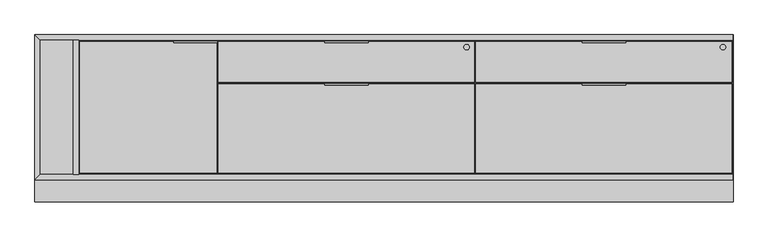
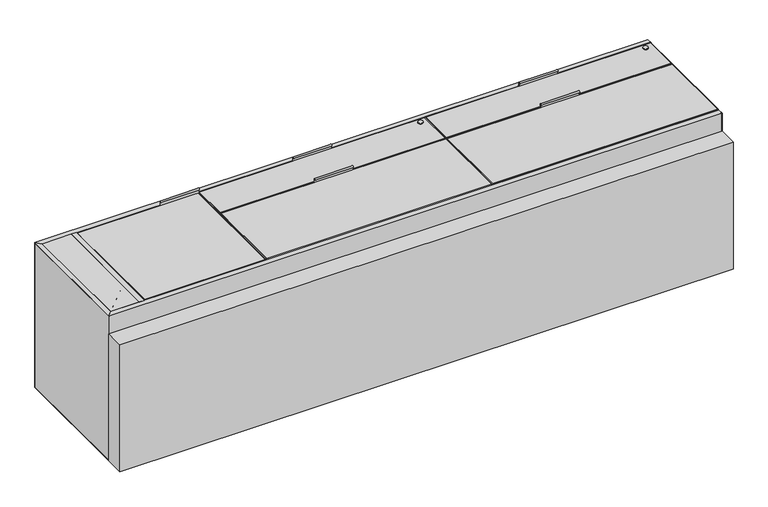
"""IFC4 building model written with IfcOpenShell, lengths in millimetres: proxy geometry, CCN^APOGEE_L1 CREDENZA-ASSEMBLY."""

from ifc_helpers import new_model, si_unit, point, frame, frame_2d, origin, origin_with_axes, place, context, project, spatial, polyline, circle_curve, trimmed, segment, composite_curve, outline, extrude, source, transform, mapped, element, save
from ifc_brep_helpers import plane_surface, cylinder_surface, advanced_brep


def generic_models_be77584e(model_context):
    return source(origin(), model_context, "Body", "SolidModel", [
        extrude(outline(composite_curve([segment(trimmed(circle_curve(frame_2d((483.39375, 626.7432437)), 3.175), [point((484.98125, 623.993613))], [point((486.56875, 626.7432437))], False, "CARTESIAN"), True, "CONTINUOUS"), segment(polyline([(486.56875, 626.7432437), (486.56875, 591.8182437), (467.51875, 591.8182437), (467.51875, 593.4057437), (484.98125, 593.4057437), (484.98125, 623.993613)]), True, "CONTINUOUS")], self_intersect=False)), frame((-2410.61875, 0.0, 0.0), z_axis=(1.0, 0.0, 0.0), x_axis=(0.0, 1.0, 0.0)), (0.0, 0.0, 1.0), 152.4),
        extrude(outline(polyline([(-457.2, 0.0), (-457.2, -76.2), (-2895.6, -76.2), (-2895.6, 0.0), (-457.2, 0.0)])), origin_with_axes(), (0.0, 0.0, 1.0), 533.4),
        extrude(outline(polyline([(-2876.55, 488.95), (-458.4192, 488.95), (-458.4192, 19.05), (-2876.55, 19.05), (-2876.55, 488.95)])), origin_with_axes(), (0.0, 0.0, 1.0), 19.05),
        extrude(outline(polyline([(-458.4192, 19.05), (-458.4192, 488.95), (-457.2, 488.95), (-457.2, 19.05), (-458.4192, 19.05)])), origin_with_axes(), (0.0, 0.0, 1.0), 19.05),
        extrude(outline(polyline([(-2410.61875, 485.34955), (-2739.59955, 485.34955), (-2739.59955, 486.56875), (-2410.61875, 486.56875), (-2410.61875, 485.34955)])), frame((0.0, 0.0, 590.55), z_axis=(0.0, 0.0, 1.0), x_axis=(1.0, 0.0, 0.0)), (0.0, 0.0, 1.0), 19.05),
        extrude(outline(polyline([(-2259.43795, 22.65045), (-2259.43795, 484.98125), (-2258.21875, 484.98125), (-2258.21875, 22.65045), (-2259.43795, 22.65045)])), frame((0.0, 0.0, 590.55), z_axis=(0.0, 0.0, 1.0), x_axis=(1.0, 0.0, 0.0)), (0.0, 0.0, 1.0), 19.05),
        extrude(outline(polyline([(-2739.59955, 22.65045), (-2259.43795, 22.65045), (-2259.43795, 21.43125), (-2739.59955, 21.43125), (-2739.59955, 22.65045)])), frame((0.0, 0.0, 590.55), z_axis=(0.0, 0.0, 1.0), x_axis=(1.0, 0.0, 0.0)), (0.0, 0.0, 1.0), 19.05),
        extrude(outline(polyline([(-2739.59955, 485.34955), (-2259.43795, 485.34955), (-2259.43795, 22.65045), (-2739.59955, 22.65045), (-2739.59955, 485.34955)])), frame((0.0, 0.0, 590.55), z_axis=(0.0, 0.0, 1.0), x_axis=(1.0, 0.0, 0.0)), (0.0, 0.0, 1.0), 19.05),
        extrude(outline(polyline([(-2739.59955, 485.34955), (-2739.59955, 22.65045), (-2740.81875, 22.65045), (-2740.81875, 485.34955), (-2739.59955, 485.34955)])), frame((0.0, 0.0, 590.55), z_axis=(0.0, 0.0, 1.0), x_axis=(1.0, 0.0, 0.0)), (0.0, 0.0, 1.0), 19.05),
        extrude(outline(polyline([(-1393.825, 47.625), (-1393.825, 20.6375), (-1373.1875, 20.6375), (-1373.1875, 69.85), (-1371.6, 69.85), (-1371.6, 19.05), (-1409.7, 19.05), (-1409.7, 47.625), (-1393.825, 47.625)])), frame((0.0, 0.0, 148.9057437), z_axis=(0.0, 0.0, 1.0), x_axis=(1.0, 0.0, 0.0)), (0.0, 0.0, 1.0), 441.325),
        extrude(outline(polyline([(-2743.2, 488.95), (-2743.2, 19.05), (-2762.25, 19.05), (-2762.25, 488.95), (-2743.2, 488.95)])), frame((0.0, 0.0, 19.05), z_axis=(0.0, 0.0, 1.0), x_axis=(1.0, 0.0, 0.0)), (0.0, 0.0, 1.0), 589.3308),
        extrude(outline(polyline([(-2743.2, 488.95), (-2743.2, 19.05), (-2762.25, 19.05), (-2762.25, 488.95), (-2743.2, 488.95)])), frame((0.0, 0.0, 608.3808), z_axis=(0.0, 0.0, 1.0), x_axis=(1.0, 0.0, 0.0)), (0.0, 0.0, 1.0), 1.2192),
        extrude(outline(composite_curve([segment(trimmed(circle_curve(frame_2d((334.9625, 626.7432437)), 3.175), [point((336.55, 623.993613))], [point((338.1375, 626.7432437))], False, "CARTESIAN"), True, "CONTINUOUS"), segment(polyline([(338.1375, 626.7432437), (338.1375, 591.8182437), (319.0875, 591.8182437), (319.0875, 593.4057437), (336.55, 593.4057437), (336.55, 623.993613)]), True, "CONTINUOUS")], self_intersect=False)), frame((-1883.56875, 0.0, 0.0), z_axis=(1.0, 0.0, 0.0), x_axis=(0.0, 1.0, 0.0)), (0.0, 0.0, 1.0), 152.4),
        extrude(outline(polyline([(-458.4192, 0.0), (-458.4192, 19.05), (-457.2, 19.05), (-457.2, 0.0), (-458.4192, 0.0)])), frame((0.0, 0.0, 1.2192), z_axis=(0.0, 0.0, 1.0), x_axis=(1.0, 0.0, 0.0)), (0.0, 0.0, 1.0), 607.1616),
        extrude(outline(polyline([(-2895.6, 0.0), (-2876.55, 19.05), (-458.4192, 19.05), (-458.4192, 0.0), (-2895.6, 0.0)])), frame((0.0, 0.0, 608.3808), z_axis=(0.0, 0.0, 1.0), x_axis=(1.0, 0.0, 0.0)), (0.0, 0.0, 1.0), 1.2192),
        extrude(outline(polyline([(-2895.6, 0.0), (-2876.55, 19.05), (-458.4192, 19.05), (-458.4192, 0.0), (-2895.6, 0.0)])), origin_with_axes(), (0.0, 0.0, 1.0), 1.2192),
        extrude(outline(polyline([(-2895.6, 0.0), (-2876.55, 19.05), (-458.4192, 19.05), (-458.4192, 0.0), (-2895.6, 0.0)])), frame((0.0, 0.0, 1.2192), z_axis=(0.0, 0.0, 1.0), x_axis=(1.0, 0.0, 0.0)), (0.0, 0.0, 1.0), 607.1616),
        extrude(outline(polyline([(-2876.55, 488.95), (-2762.25, 488.95), (-2762.25, 19.05), (-2876.55, 19.05), (-2876.55, 488.95)])), frame((0.0, 0.0, 590.55), z_axis=(0.0, 0.0, 1.0), x_axis=(1.0, 0.0, 0.0)), (0.0, 0.0, 1.0), 19.05),
        extrude(outline(polyline([(-1330.325, 20.6375), (-1330.325, 47.625), (-1314.45, 47.625), (-1314.45, 19.05), (-1352.55, 19.05), (-1352.55, 69.85), (-1350.9625, 69.85), (-1350.9625, 20.6375), (-1330.325, 20.6375)])), frame((0.0, 0.0, 148.9057437), z_axis=(0.0, 0.0, 1.0), x_axis=(1.0, 0.0, 0.0)), (0.0, 0.0, 1.0), 441.325),
        extrude(outline(polyline([(-498.475, 47.625), (-498.475, 20.6375), (-477.8375, 20.6375), (-477.8375, 69.85), (-476.25, 69.85), (-476.25, 19.05), (-514.35, 19.05), (-514.35, 47.625), (-498.475, 47.625)])), frame((0.0, 0.0, 148.9057437), z_axis=(0.0, 0.0, 1.0), x_axis=(1.0, 0.0, 0.0)), (0.0, 0.0, 1.0), 441.325),
        extrude(outline(composite_curve([segment(trimmed(circle_curve(frame_2d((483.39375, 626.7432437)), 3.175), [point((484.98125, 623.993613))], [point((486.56875, 626.7432437))], False, "CARTESIAN"), True, "CONTINUOUS"), segment(polyline([(486.56875, 626.7432437), (486.56875, 591.8182437), (467.51875, 591.8182437), (467.51875, 593.4057437), (484.98125, 593.4057437), (484.98125, 623.993613)]), True, "CONTINUOUS")], self_intersect=False)), frame((-984.25, 0.0, 0.0), z_axis=(1.0, 0.0, 0.0), x_axis=(0.0, 1.0, 0.0)), (0.0, 0.0, 1.0), 152.4),
        extrude(outline(polyline([(-1352.55, 488.95), (-1352.55, 19.05), (-1371.6, 19.05), (-1371.6, 488.95), (-1352.55, 488.95)])), frame((0.0, 0.0, 586.1558), z_axis=(0.0, 0.0, 1.0), x_axis=(1.0, 0.0, 0.0)), (0.0, 0.0, 1.0), 1.2192),
        extrude(outline(polyline([(-476.25, 488.95), (-457.2, 488.95), (-457.2, 19.05), (-476.25, 19.05), (-476.25, 488.95)])), frame((0.0, 0.0, 586.1558), z_axis=(0.0, 0.0, 1.0), x_axis=(1.0, 0.0, 0.0)), (0.0, 0.0, 1.0), 1.2192),
        extrude(outline(polyline([(-458.4192, 488.95), (-458.4192, 508.0), (-457.2, 508.0), (-457.2, 488.95), (-458.4192, 488.95)])), frame((0.0, 0.0, 1.2192), z_axis=(0.0, 0.0, 1.0), x_axis=(1.0, 0.0, 0.0)), (0.0, 0.0, 1.0), 607.1616),
        extrude(outline(polyline([(-2876.55, 488.95), (-2895.6, 508.0), (-458.4192, 508.0), (-458.4192, 488.95), (-2876.55, 488.95)])), frame((0.0, 0.0, 608.3808), z_axis=(0.0, 0.0, 1.0), x_axis=(1.0, 0.0, 0.0)), (0.0, 0.0, 1.0), 1.2192),
        extrude(outline(polyline([(-2876.55, 488.95), (-2895.6, 508.0), (-458.4192, 508.0), (-458.4192, 488.95), (-2876.55, 488.95)])), origin_with_axes(), (0.0, 0.0, 1.0), 1.2192),
        extrude(outline(polyline([(-2876.55, 488.95), (-2895.6, 508.0), (-458.4192, 508.0), (-458.4192, 488.95), (-2876.55, 488.95)])), frame((0.0, 0.0, 1.2192), z_axis=(0.0, 0.0, 1.0), x_axis=(1.0, 0.0, 0.0)), (0.0, 0.0, 1.0), 607.1616),
        extrude(outline(composite_curve([segment(trimmed(circle_curve(frame_2d((334.9625, 626.7432437)), 3.175), [point((336.55, 623.993613))], [point((338.1375, 626.7432437))], False, "CARTESIAN"), True, "CONTINUOUS"), segment(polyline([(338.1375, 626.7432437), (338.1375, 591.8182437), (319.0875, 591.8182437), (319.0875, 593.4057437), (336.55, 593.4057437), (336.55, 623.993613)]), True, "CONTINUOUS")], self_intersect=False)), frame((-984.25, 0.0, 0.0), z_axis=(1.0, 0.0, 0.0), x_axis=(0.0, 1.0, 0.0)), (0.0, 0.0, 1.0), 152.4),
        advanced_brep(
        [(-500.022975, 464.8289627, 612.4557437), (-500.022975, 464.8289627, 599.7557437), (-485.519575, 464.8289627, 599.7557437), (-485.519575, 464.8289627, 612.4557437), (-502.296275, 464.8289627, 612.4557437), (-502.296275, 464.8289627, 615.6307437), (-483.246275, 464.8289627, 615.6307437), (-483.246275, 464.8289627, 612.4557437)],
        [
            (0, 1),
            (1, 2, circle_curve(frame((-492.771275, 464.8289627, 599.7557437), z_axis=(0.0, 0.0, 1.0), x_axis=(-1.0, 0.0, 0.0)), 7.2517)),
            (2, 3),
            (3, 0, circle_curve(frame((-492.771275, 464.8289627, 612.4557437), z_axis=(0.0, 0.0, -1.0), x_axis=(-1.0, 0.0, 0.0)), 7.2517)),
            (4, 5),
            (5, 6, circle_curve(frame((-492.771275, 464.8289627, 615.6307437), z_axis=(0.0, 0.0, -1.0), x_axis=(-1.0, 0.0, 0.0)), 9.525)),
            (6, 7),
            (7, 4, circle_curve(frame((-492.771275, 464.8289627, 612.4557437), z_axis=(0.0, 0.0, 1.0), x_axis=(-1.0, 0.0, 0.0)), 9.525)),
            (5, 6, circle_curve(frame((-492.771275, 464.8289627, 615.6307437), z_axis=(0.0, 0.0, 1.0), x_axis=(-1.0, 0.0, 0.0)), 9.525)),
            (1, 2, circle_curve(frame((-492.771275, 464.8289627, 599.7557437), z_axis=(0.0, 0.0, -1.0), x_axis=(-1.0, 0.0, 0.0)), 7.2517)),
            (7, 4, circle_curve(frame((-492.771275, 464.8289627, 612.4557437), z_axis=(0.0, 0.0, -1.0), x_axis=(-1.0, 0.0, 0.0)), 9.525)),
            (3, 0, circle_curve(frame((-492.771275, 464.8289627, 612.4557437), z_axis=(0.0, 0.0, 1.0), x_axis=(-1.0, 0.0, 0.0)), 7.2517)),
        ],
        [
            cylinder_surface(frame((-492.771275, 464.8289627, 612.4557437), z_axis=(0.0, 0.0, -1.0), x_axis=(-1.0, 0.0, 0.0)), 7.2517),
            cylinder_surface(frame((-492.771275, 464.8289627, 612.4557437), z_axis=(0.0, 0.0, 1.0), x_axis=(-1.0, 0.0, 0.0)), 9.525),
            plane_surface(frame((-492.771275, 464.8289627, 615.6307437), z_axis=(0.0, 0.0, 1.0), x_axis=(-1.0, 0.0, 0.0))),
            plane_surface(frame((-492.771275, 464.8289627, 599.7557437), z_axis=(0.0, 0.0, -1.0), x_axis=(-1.0, 0.0, 0.0))),
            plane_surface(frame((-492.771275, 464.8289627, 612.4557437), z_axis=(0.0, 0.0, -1.0), x_axis=(-1.0, 0.0, 0.0))),
        ],
        [
            (0, [[1, 2, 3, 4]]),
            (1, [[5, 6, 7, 8]]),
            (2, [[9, -6]]),
            (3, [[10, -2]]),
            (4, [[11, -8], [-4, 12]]),
            (1, [[-5, -11, -7, -9]]),
            (0, [[-1, -12, -3, -10]]),
        ],
    ),
        extrude(outline(polyline([(-1360.1192, 485.34955), (-1731.16875, 485.34955), (-1731.16875, 486.56875), (-1360.1192, 486.56875), (-1360.1192, 485.34955)])), frame((0.0, 0.0, 593.4057437), z_axis=(0.0, 0.0, 1.0), x_axis=(1.0, 0.0, 0.0)), (0.0, 0.0, 1.0), 19.05),
        extrude(outline(polyline([(-1360.1192, 341.73795), (-1360.1192, 485.34955), (-1358.9, 485.34955), (-1358.9, 341.73795), (-1360.1192, 341.73795)])), frame((0.0, 0.0, 593.4057437), z_axis=(0.0, 0.0, 1.0), x_axis=(1.0, 0.0, 0.0)), (0.0, 0.0, 1.0), 19.05),
        extrude(outline(polyline([(-1883.56875, 485.34955), (-2254.6183, 485.34955), (-2254.6183, 486.56875), (-1883.56875, 486.56875), (-1883.56875, 485.34955)])), frame((0.0, 0.0, 593.4057437), z_axis=(0.0, 0.0, 1.0), x_axis=(1.0, 0.0, 0.0)), (0.0, 0.0, 1.0), 19.05),
        extrude(outline(polyline([(-2254.6183, 341.73795), (-1360.1192, 341.73795), (-1360.1192, 340.51875), (-2254.6183, 340.51875), (-2254.6183, 341.73795)])), frame((0.0, 0.0, 593.4057437), z_axis=(0.0, 0.0, 1.0), x_axis=(1.0, 0.0, 0.0)), (0.0, 0.0, 1.0), 19.05),
        extrude(outline(polyline([(-2254.6183, 485.34955), (-1360.1192, 485.34955), (-1360.1192, 341.73795), (-2254.6183, 341.73795), (-2254.6183, 485.34955)])), frame((0.0, 0.0, 593.4057437), z_axis=(0.0, 0.0, 1.0), x_axis=(1.0, 0.0, 0.0)), (0.0, 0.0, 1.0), 19.05),
        extrude(outline(polyline([(-2254.6183, 485.34955), (-2254.6183, 341.73795), (-2255.8375, 341.73795), (-2255.8375, 485.34955), (-2254.6183, 485.34955)])), frame((0.0, 0.0, 593.4057437), z_axis=(0.0, 0.0, 1.0), x_axis=(1.0, 0.0, 0.0)), (0.0, 0.0, 1.0), 19.05),
        extrude(outline(polyline([(-460.80045, 336.9183), (-831.85, 336.9183), (-831.85, 338.1375), (-460.80045, 338.1375), (-460.80045, 336.9183)])), frame((0.0, 0.0, 593.4057437), z_axis=(0.0, 0.0, 1.0), x_axis=(1.0, 0.0, 0.0)), (0.0, 0.0, 1.0), 19.05),
        extrude(outline(polyline([(-460.80045, 22.65045), (-460.80045, 336.9183), (-459.58125, 336.9183), (-459.58125, 22.65045), (-460.80045, 22.65045)])), frame((0.0, 0.0, 593.4057437), z_axis=(0.0, 0.0, 1.0), x_axis=(1.0, 0.0, 0.0)), (0.0, 0.0, 1.0), 19.05),
        extrude(outline(polyline([(-984.25, 336.9183), (-1355.29955, 336.9183), (-1355.29955, 338.1375), (-984.25, 338.1375), (-984.25, 336.9183)])), frame((0.0, 0.0, 593.4057437), z_axis=(0.0, 0.0, 1.0), x_axis=(1.0, 0.0, 0.0)), (0.0, 0.0, 1.0), 19.05),
        extrude(outline(polyline([(-1355.29955, 22.65045), (-460.80045, 22.65045), (-460.80045, 21.43125), (-1355.29955, 21.43125), (-1355.29955, 22.65045)])), frame((0.0, 0.0, 593.4057437), z_axis=(0.0, 0.0, 1.0), x_axis=(1.0, 0.0, 0.0)), (0.0, 0.0, 1.0), 19.05),
        extrude(outline(polyline([(-1355.29955, 336.9183), (-460.80045, 336.9183), (-460.80045, 22.65045), (-1355.29955, 22.65045), (-1355.29955, 336.9183)])), frame((0.0, 0.0, 593.4057437), z_axis=(0.0, 0.0, 1.0), x_axis=(1.0, 0.0, 0.0)), (0.0, 0.0, 1.0), 19.05),
        extrude(outline(polyline([(-1355.29955, 336.9183), (-1355.29955, 22.65045), (-1356.51875, 22.65045), (-1356.51875, 336.9183), (-1355.29955, 336.9183)])), frame((0.0, 0.0, 593.4057437), z_axis=(0.0, 0.0, 1.0), x_axis=(1.0, 0.0, 0.0)), (0.0, 0.0, 1.0), 19.05),
        advanced_brep(
        [(-1394.9395492, 464.8289627, 612.4557437), (-1394.9395492, 464.8289627, 599.7557437), (-1380.4361492, 464.8289627, 599.7557437), (-1380.4361492, 464.8289627, 612.4557437), (-1397.2128492, 464.8289627, 612.4557437), (-1397.2128492, 464.8289627, 615.6307437), (-1378.1628492, 464.8289627, 615.6307437), (-1378.1628492, 464.8289627, 612.4557437)],
        [
            (0, 1),
            (1, 2, circle_curve(frame((-1387.6878492, 464.8289627, 599.7557437), z_axis=(0.0, 0.0, 1.0), x_axis=(-1.0, 0.0, 0.0)), 7.2517)),
            (2, 3),
            (3, 0, circle_curve(frame((-1387.6878492, 464.8289627, 612.4557437), z_axis=(0.0, 0.0, -1.0), x_axis=(-1.0, 0.0, 0.0)), 7.2517)),
            (4, 5),
            (5, 6, circle_curve(frame((-1387.6878492, 464.8289627, 615.6307437), z_axis=(0.0, 0.0, -1.0), x_axis=(-1.0, 0.0, 0.0)), 9.525)),
            (6, 7),
            (7, 4, circle_curve(frame((-1387.6878492, 464.8289627, 612.4557437), z_axis=(0.0, 0.0, 1.0), x_axis=(-1.0, 0.0, 0.0)), 9.525)),
            (5, 6, circle_curve(frame((-1387.6878492, 464.8289627, 615.6307437), z_axis=(0.0, 0.0, 1.0), x_axis=(-1.0, 0.0, 0.0)), 9.525)),
            (1, 2, circle_curve(frame((-1387.6878492, 464.8289627, 599.7557437), z_axis=(0.0, 0.0, -1.0), x_axis=(-1.0, 0.0, 0.0)), 7.2517)),
            (7, 4, circle_curve(frame((-1387.6878492, 464.8289627, 612.4557437), z_axis=(0.0, 0.0, -1.0), x_axis=(-1.0, 0.0, 0.0)), 9.525)),
            (3, 0, circle_curve(frame((-1387.6878492, 464.8289627, 612.4557437), z_axis=(0.0, 0.0, 1.0), x_axis=(-1.0, 0.0, 0.0)), 7.2517)),
        ],
        [
            cylinder_surface(frame((-1387.6878492, 464.8289627, 612.4557437), z_axis=(0.0, 0.0, -1.0), x_axis=(-1.0, 0.0, 0.0)), 7.2517),
            cylinder_surface(frame((-1387.6878492, 464.8289627, 612.4557437), z_axis=(0.0, 0.0, 1.0), x_axis=(-1.0, 0.0, 0.0)), 9.525),
            plane_surface(frame((-1387.6878492, 464.8289627, 615.6307437), z_axis=(0.0, 0.0, 1.0), x_axis=(-1.0, 0.0, 0.0))),
            plane_surface(frame((-1387.6878492, 464.8289627, 599.7557437), z_axis=(0.0, 0.0, -1.0), x_axis=(-1.0, 0.0, 0.0))),
            plane_surface(frame((-1387.6878492, 464.8289627, 612.4557437), z_axis=(0.0, 0.0, -1.0), x_axis=(-1.0, 0.0, 0.0))),
        ],
        [
            (0, [[1, 2, 3, 4]]),
            (1, [[5, 6, 7, 8]]),
            (2, [[9, -6]]),
            (3, [[10, -2]]),
            (4, [[11, -8], [-4, 12]]),
            (1, [[-5, -11, -7, -9]]),
            (0, [[-1, -12, -3, -10]]),
        ],
    ),
        extrude(outline(polyline([(-1360.1192, 336.9183), (-1731.16875, 336.9183), (-1731.16875, 338.1375), (-1360.1192, 338.1375), (-1360.1192, 336.9183)])), frame((0.0, 0.0, 593.4057437), z_axis=(0.0, 0.0, 1.0), x_axis=(1.0, 0.0, 0.0)), (0.0, 0.0, 1.0), 19.05),
        extrude(outline(polyline([(-1360.1192, 22.65045), (-1360.1192, 336.9183), (-1358.9, 336.9183), (-1358.9, 22.65045), (-1360.1192, 22.65045)])), frame((0.0, 0.0, 593.4057437), z_axis=(0.0, 0.0, 1.0), x_axis=(1.0, 0.0, 0.0)), (0.0, 0.0, 1.0), 19.05),
        extrude(outline(polyline([(-1883.56875, 336.9183), (-2254.6183, 336.9183), (-2254.6183, 338.1375), (-1883.56875, 338.1375), (-1883.56875, 336.9183)])), frame((0.0, 0.0, 593.4057437), z_axis=(0.0, 0.0, 1.0), x_axis=(1.0, 0.0, 0.0)), (0.0, 0.0, 1.0), 19.05),
        extrude(outline(polyline([(-2254.6183, 22.65045), (-1360.1192, 22.65045), (-1360.1192, 21.43125), (-2254.6183, 21.43125), (-2254.6183, 22.65045)])), frame((0.0, 0.0, 593.4057437), z_axis=(0.0, 0.0, 1.0), x_axis=(1.0, 0.0, 0.0)), (0.0, 0.0, 1.0), 19.05),
        extrude(outline(polyline([(-2254.6183, 336.9183), (-1360.1192, 336.9183), (-1360.1192, 22.65045), (-2254.6183, 22.65045), (-2254.6183, 336.9183)])), frame((0.0, 0.0, 593.4057437), z_axis=(0.0, 0.0, 1.0), x_axis=(1.0, 0.0, 0.0)), (0.0, 0.0, 1.0), 19.05),
        extrude(outline(polyline([(-2254.6183, 336.9183), (-2254.6183, 22.65045), (-2255.8375, 22.65045), (-2255.8375, 336.9183), (-2254.6183, 336.9183)])), frame((0.0, 0.0, 593.4057437), z_axis=(0.0, 0.0, 1.0), x_axis=(1.0, 0.0, 0.0)), (0.0, 0.0, 1.0), 19.05),
        extrude(outline(composite_curve([segment(trimmed(circle_curve(frame_2d((483.39375, 626.7432437)), 3.175), [point((484.98125, 623.993613))], [point((486.56875, 626.7432437))], False, "CARTESIAN"), True, "CONTINUOUS"), segment(polyline([(486.56875, 626.7432437), (486.56875, 591.8182437), (467.51875, 591.8182437), (467.51875, 593.4057437), (484.98125, 593.4057437), (484.98125, 623.993613)]), True, "CONTINUOUS")], self_intersect=False)), frame((-1883.56875, 0.0, 0.0), z_axis=(1.0, 0.0, 0.0), x_axis=(0.0, 1.0, 0.0)), (0.0, 0.0, 1.0), 152.4),
        extrude(outline(polyline([(-2895.6, 508.0), (-2876.55, 488.95), (-2876.55, 19.05), (-2895.6, 0.0), (-2895.6, 508.0)])), frame((0.0, 0.0, 608.3808), z_axis=(0.0, 0.0, 1.0), x_axis=(1.0, 0.0, 0.0)), (0.0, 0.0, 1.0), 1.2192),
        extrude(outline(polyline([(-2895.6, 0.0), (-2895.6, 508.0), (-2876.55, 488.95), (-2876.55, 19.05), (-2895.6, 0.0)])), origin_with_axes(), (0.0, 0.0, 1.0), 1.2192),
        extrude(outline(polyline([(-2641.6, 254.0), (-2895.6, 0.0), (-2895.6, 508.0), (-2641.6, 254.0)])), frame((0.0, 0.0, 1.2192), z_axis=(0.0, 0.0, 1.0), x_axis=(1.0, 0.0, 0.0)), (0.0, 0.0, 1.0), 607.1616),
        extrude(outline(polyline([(-460.80045, 485.34955), (-831.85, 485.34955), (-831.85, 486.56875), (-460.80045, 486.56875), (-460.80045, 485.34955)])), frame((0.0, 0.0, 593.4057437), z_axis=(0.0, 0.0, 1.0), x_axis=(1.0, 0.0, 0.0)), (0.0, 0.0, 1.0), 19.05),
        extrude(outline(polyline([(-460.80045, 341.73795), (-460.80045, 485.34955), (-459.58125, 485.34955), (-459.58125, 341.73795), (-460.80045, 341.73795)])), frame((0.0, 0.0, 593.4057437), z_axis=(0.0, 0.0, 1.0), x_axis=(1.0, 0.0, 0.0)), (0.0, 0.0, 1.0), 19.05),
        extrude(outline(polyline([(-984.25, 485.34955), (-1355.29955, 485.34955), (-1355.29955, 486.56875), (-984.25, 486.56875), (-984.25, 485.34955)])), frame((0.0, 0.0, 593.4057437), z_axis=(0.0, 0.0, 1.0), x_axis=(1.0, 0.0, 0.0)), (0.0, 0.0, 1.0), 19.05),
        extrude(outline(polyline([(-1355.29955, 341.73795), (-460.80045, 341.73795), (-460.80045, 340.51875), (-1355.29955, 340.51875), (-1355.29955, 341.73795)])), frame((0.0, 0.0, 593.4057437), z_axis=(0.0, 0.0, 1.0), x_axis=(1.0, 0.0, 0.0)), (0.0, 0.0, 1.0), 19.05),
        extrude(outline(polyline([(-1355.29955, 485.34955), (-460.80045, 485.34955), (-460.80045, 341.73795), (-1355.29955, 341.73795), (-1355.29955, 485.34955)])), frame((0.0, 0.0, 593.4057437), z_axis=(0.0, 0.0, 1.0), x_axis=(1.0, 0.0, 0.0)), (0.0, 0.0, 1.0), 19.05),
        extrude(outline(polyline([(-1355.29955, 485.34955), (-1355.29955, 341.73795), (-1356.51875, 341.73795), (-1356.51875, 485.34955), (-1355.29955, 485.34955)])), frame((0.0, 0.0, 593.4057437), z_axis=(0.0, 0.0, 1.0), x_axis=(1.0, 0.0, 0.0)), (0.0, 0.0, 1.0), 19.05),
    ])


if __name__ == "__main__":
    model = new_model("IFC4")
    model_context = context("Model", 3, world=origin())
    ifc_project = project(units=[si_unit("LENGTHUNIT", "METRE", prefix="MILLI")], contexts=[model_context])
    site = spatial("IfcSite", under=ifc_project)
    building = spatial("IfcBuilding", under=site)
    placement = place(None, origin())
    generic_models_shape = generic_models_be77584e(model_context)
    element("IfcBuildingElementProxy", 1, Name="CCN^APOGEE_L1 CREDENZA-ASSEMBLY", ObjectType="CCN^APOGEE_L1 CREDENZA-ASSEMBLY", at=placement, inside=building, context=model_context, shape_type="MappedRepresentation", body=[
        mapped(generic_models_shape, transform((0.0, 0.0, 0.0), x_axis=(1.0, 0.0, 0.0), y_axis=(0.0, 1.0, 0.0), z_axis=(0.0, 0.0, 1.0))),
    ])
    save(model, "model.ifc")
